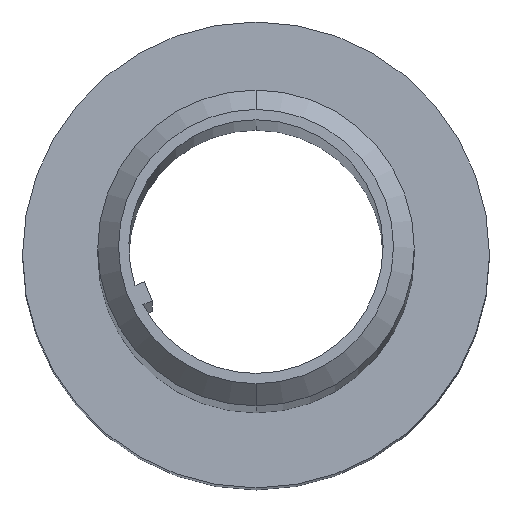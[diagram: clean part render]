
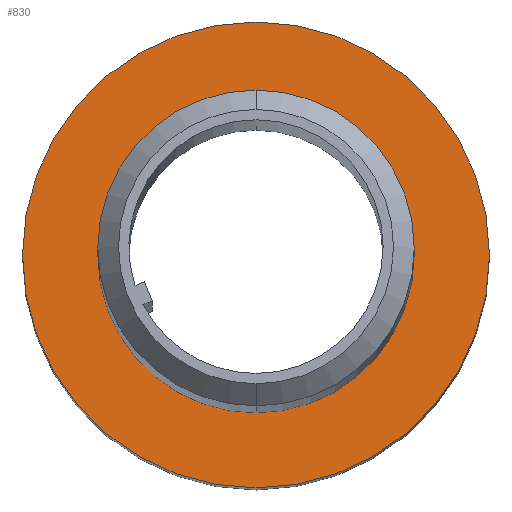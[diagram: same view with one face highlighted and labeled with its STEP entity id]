
A CAD part, left-side view. The second image highlights one B-rep face of the part: STEP entity #830.
In plain terms, the highlighted planar face has unit normal (-0.998, 0, 0.067).
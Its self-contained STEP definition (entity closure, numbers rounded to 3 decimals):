
#13 = AXIS2_PLACEMENT_3D ( 'NONE', #808, #421, #729 ) ;
#27 = CIRCLE ( 'NONE', #309, 22.5 ) ;
#32 = DIRECTION ( 'NONE',  ( 0.998, 0., -0.067 ) ) ;
#39 = DIRECTION ( 'NONE',  ( 0.067, 0., 0.998 ) ) ;
#50 = EDGE_CURVE ( 'NONE', #498, #155, #665, .T. ) ;
#80 = ORIENTED_EDGE ( 'NONE', *, *, #590, .T. ) ;
#83 = AXIS2_PLACEMENT_3D ( 'NONE', #659, #223, #39 ) ;
#117 = EDGE_CURVE ( 'NONE', #164, #203, #27, .T. ) ;
#153 = DIRECTION ( 'NONE',  ( 0.067, 0., 0.998 ) ) ;
#155 = VERTEX_POINT ( 'NONE', #663 ) ;
#159 = EDGE_CURVE ( 'NONE', #203, #164, #483, .T. ) ;
#164 = VERTEX_POINT ( 'NONE', #416 ) ;
#174 = ORIENTED_EDGE ( 'NONE', *, *, #159, .F. ) ;
#183 = FACE_OUTER_BOUND ( 'NONE', #593, .T. ) ;
#201 = CIRCLE ( 'NONE', #802, 15.25 ) ;
#203 = VERTEX_POINT ( 'NONE', #597 ) ;
#223 = DIRECTION ( 'NONE',  ( 0.998, 0., -0.067 ) ) ;
#224 = FACE_BOUND ( 'NONE', #541, .T. ) ;
#239 = AXIS2_PLACEMENT_3D ( 'NONE', #720, #32, #153 ) ;
#254 = ORIENTED_EDGE ( 'NONE', *, *, #117, .F. ) ;
#296 = ORIENTED_EDGE ( 'NONE', *, *, #50, .T. ) ;
#309 = AXIS2_PLACEMENT_3D ( 'NONE', #537, #780, #402 ) ;
#402 = DIRECTION ( 'NONE',  ( 0.067, 0., 0.998 ) ) ;
#416 = CARTESIAN_POINT ( 'NONE',  ( -97.412, 72.395, 161.321 ) ) ;
#421 = DIRECTION ( 'NONE',  ( -0.998, 0., 0.067 ) ) ;
#447 = CARTESIAN_POINT ( 'NONE',  ( -96.925, 72.395, 168.554 ) ) ;
#483 = CIRCLE ( 'NONE', #83, 22.5 ) ;
#498 = VERTEX_POINT ( 'NONE', #447 ) ;
#537 = CARTESIAN_POINT ( 'NONE',  ( -95.902, 72.395, 183.77 ) ) ;
#541 = EDGE_LOOP ( 'NONE', ( #80, #296 ) ) ;
#590 = EDGE_CURVE ( 'NONE', #155, #498, #201, .T. ) ;
#593 = EDGE_LOOP ( 'NONE', ( #174, #254 ) ) ;
#597 = CARTESIAN_POINT ( 'NONE',  ( -94.391, 72.395, 206.219 ) ) ;
#659 = CARTESIAN_POINT ( 'NONE',  ( -95.902, 72.395, 183.77 ) ) ;
#663 = CARTESIAN_POINT ( 'NONE',  ( -94.878, 72.395, 198.985 ) ) ;
#665 = CIRCLE ( 'NONE', #239, 15.25 ) ;
#707 = DIRECTION ( 'NONE',  ( 0.067, 0., 0.998 ) ) ;
#713 = CARTESIAN_POINT ( 'NONE',  ( -95.902, 72.395, 183.77 ) ) ;
#720 = CARTESIAN_POINT ( 'NONE',  ( -95.902, 72.395, 183.77 ) ) ;
#729 = DIRECTION ( 'NONE',  ( 0.067, 0., 0.998 ) ) ;
#731 = PLANE ( 'NONE',  #13 ) ;
#779 = DIRECTION ( 'NONE',  ( 0.998, 0., -0.067 ) ) ;
#780 = DIRECTION ( 'NONE',  ( 0.998, 0., -0.067 ) ) ;
#802 = AXIS2_PLACEMENT_3D ( 'NONE', #713, #779, #707 ) ;
#808 = CARTESIAN_POINT ( 'NONE',  ( -94.956, 78.236, 197.825 ) ) ;
#830 = ADVANCED_FACE ( 'NONE', ( #224, #183 ), #731, .T. ) ;
